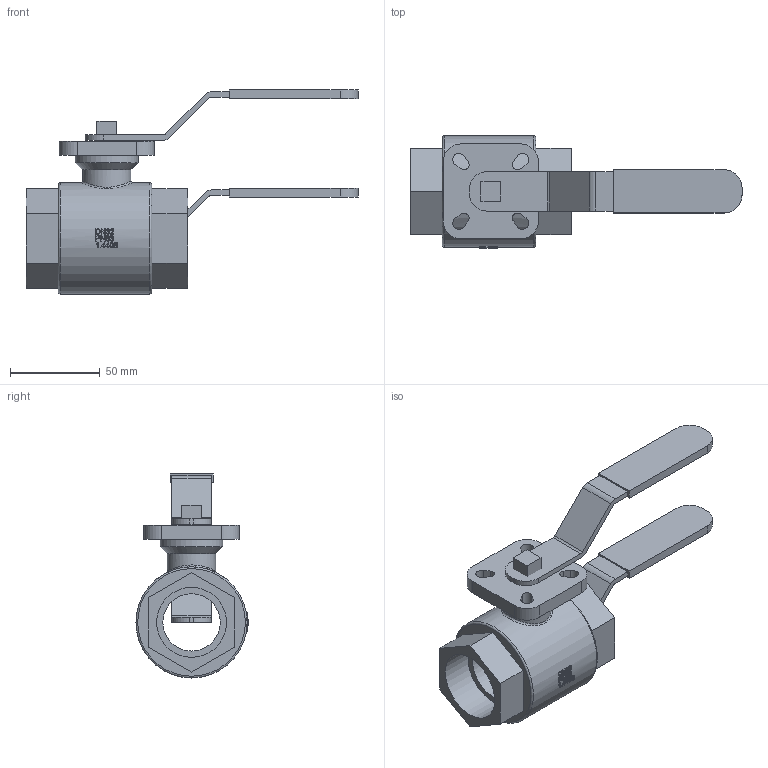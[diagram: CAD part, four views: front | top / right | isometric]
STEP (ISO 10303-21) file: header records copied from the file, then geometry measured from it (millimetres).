
FILE_DESCRIPTION( ( 'Unknown' ), '1' );
FILE_NAME( 'J:/Muud/ROOTSI BPS 3D vidinad/Kuulkraanid/Roostevaba kuulkraanid/Ball valve BPS 2411/Ball valve with hand lever BPS/STEP formaat/BPS 2411032 ball valve DN32.stp', 'Unknown', ( 'Unknown' ), ( 'Unknown' ), 'PSStep 10.1', 'Unknown', ' ' );
FILE_SCHEMA( ( 'AUTOMOTIVE_DESIGN { 1 0 10303 214 1 1 1 1 }' ) );
Length unit declared in the file: millimetre
Products named in the file (3): Assem1; BPS 2411032 ball valve DN32; Hand lever for ball valve DN25-32 BPS 2411
Bounding box: 185 x 62.5 x 113.7 mm (x, y, z)
Volume: 386690.3 mm3; surface area: 94783.8 mm2
Topology: 4 solids, 4 shells, 410 faces, 1022 edges, 680 vertices
Faces by surface type: plane 220, cylinder 98, bspline 86, torus 4, cone 2
Full cylindrical faces by diameter (mm): 3 x2, 27 x2, 32 x2, 35 x2, 38.952 x4, 62 x2
Entity records: 11476 total; most frequent: CARTESIAN_POINT 5604, ORIENTED_EDGE 984, DIRECTION 580, EDGE_CURVE 492, VERTEX_POINT 337, B_SPLINE_CURVE_WITH_KNOTS 297, EDGE_LOOP 263, AXIS2_PLACEMENT_3D 220
